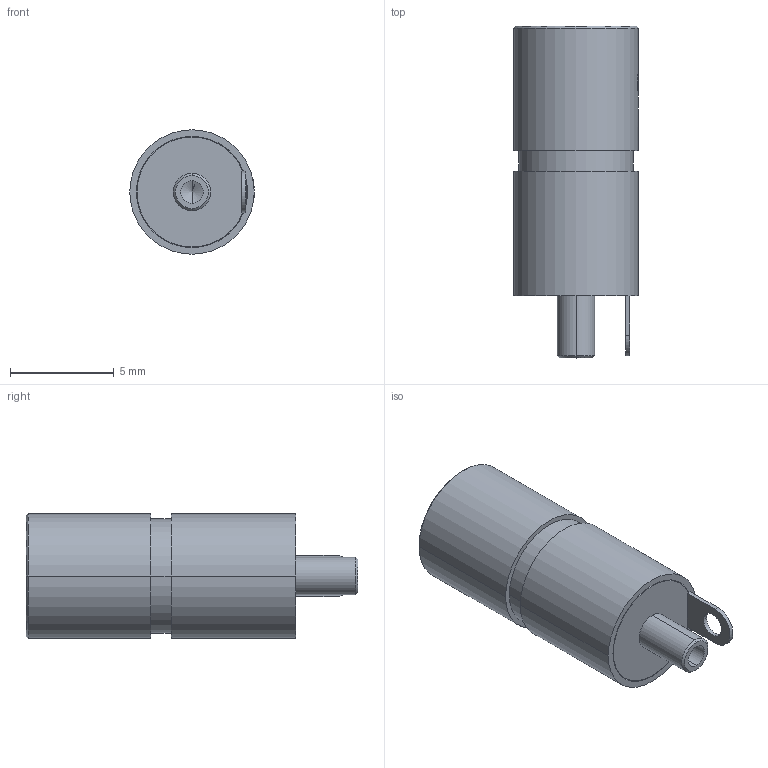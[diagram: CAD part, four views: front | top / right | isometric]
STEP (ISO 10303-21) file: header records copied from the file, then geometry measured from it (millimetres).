
FILE_DESCRIPTION((''),'2;1');
FILE_NAME('S025A','2023-09-10T',('WYH'),(''),'PRO/ENGINEER BY PARAMETRIC TECHNOLOGY CORPORATION, 2013040','PRO/ENGINEER BY PARAMETRIC TECHNOLOGY CORPORATION, 2013040','');
FILE_SCHEMA(('CONFIG_CONTROL_DESIGN'));
Length unit declared in the file: millimetre
Products named in the file (1): S025A
Bounding box: 6 x 16 x 6 mm (x, y, z)
Volume: 228.2 mm3; surface area: 759.3 mm2
Topology: 1 solids, 1 shells, 486 faces, 1372 edges, 902 vertices
Faces by surface type: plane 438, cylinder 38, cone 8, sphere 2
Entity records: 15628 total; most frequent: CARTESIAN_POINT 3294, ORIENTED_EDGE 2736, DIRECTION 2269, EDGE_CURVE 1368, VECTOR 989, LINE 989, VERTEX_POINT 902, AXIS2_PLACEMENT_3D 640
